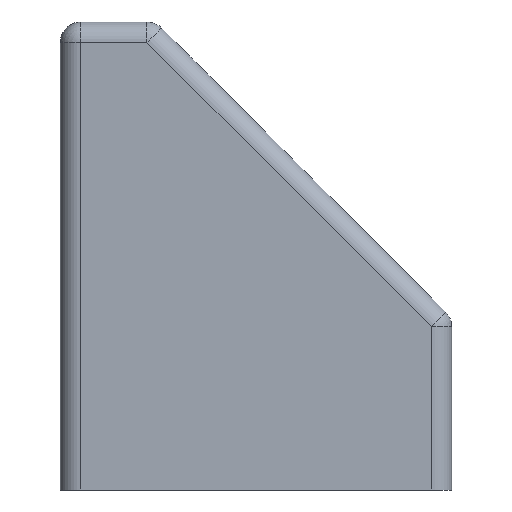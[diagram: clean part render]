
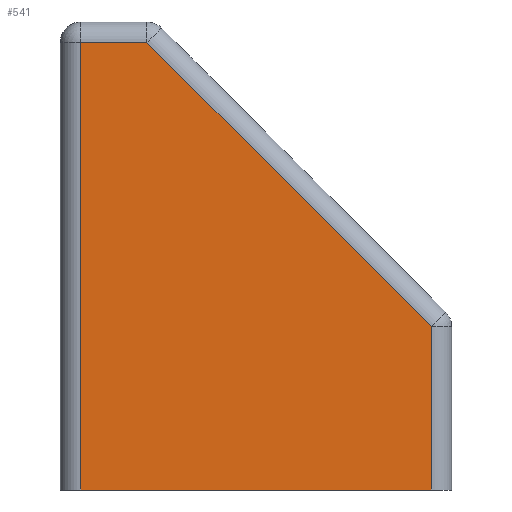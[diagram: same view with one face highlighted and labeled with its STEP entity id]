
A CAD part, left-side view. The second image highlights one B-rep face of the part: STEP entity #541.
In plain terms, the highlighted planar face has unit normal (-1, 0, 0).
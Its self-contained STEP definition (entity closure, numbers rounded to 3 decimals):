
#24 = VERTEX_POINT('',#25);
#25 = CARTESIAN_POINT('',(0.,3.,0.));
#33 = PLANE('',#34);
#34 = AXIS2_PLACEMENT_3D('',#35,#36,#37);
#35 = CARTESIAN_POINT('',(0.,0.,0.));
#36 = DIRECTION('',(0.,0.,1.));
#37 = DIRECTION('',(0.,1.,0.));
#49 = CYLINDRICAL_SURFACE('',#50,3.);
#50 = AXIS2_PLACEMENT_3D('',#51,#52,#53);
#51 = CARTESIAN_POINT('',(3.,3.,25.));
#52 = DIRECTION('',(0.,0.,-1.));
#53 = DIRECTION('',(0.,-1.,-0.));
#413 = VERTEX_POINT('',#414);
#414 = CARTESIAN_POINT('',(0.,54.,0.));
#429 = CYLINDRICAL_SURFACE('',#430,3.);
#430 = AXIS2_PLACEMENT_3D('',#431,#432,#433);
#431 = CARTESIAN_POINT('',(3.,54.,0.));
#432 = DIRECTION('',(0.,0.,1.));
#433 = DIRECTION('',(-0.,1.,0.));
#441 = EDGE_CURVE('',#24,#413,#442,.T.);
#442 = SURFACE_CURVE('',#443,(#447,#454),.PCURVE_S1.);
#443 = LINE('',#444,#445);
#444 = CARTESIAN_POINT('',(0.,0.,0.));
#445 = VECTOR('',#446,1.);
#446 = DIRECTION('',(0.,1.,0.));
#447 = PCURVE('',#33,#448);
#448 = DEFINITIONAL_REPRESENTATION('',(#449),#453);
#449 = LINE('',#450,#451);
#450 = CARTESIAN_POINT('',(0.,0.));
#451 = VECTOR('',#452,1.);
#452 = DIRECTION('',(1.,0.));
#453 = ( GEOMETRIC_REPRESENTATION_CONTEXT(2) 
PARAMETRIC_REPRESENTATION_CONTEXT() REPRESENTATION_CONTEXT('2D SPACE',''
  ) );
#454 = PCURVE('',#455,#460);
#455 = PLANE('',#456);
#456 = AXIS2_PLACEMENT_3D('',#457,#458,#459);
#457 = CARTESIAN_POINT('',(0.,33.413,28.529));
#458 = DIRECTION('',(1.,0.,0.));
#459 = DIRECTION('',(0.,1.,0.));
#460 = DEFINITIONAL_REPRESENTATION('',(#461),#465);
#461 = LINE('',#462,#463);
#462 = CARTESIAN_POINT('',(-33.413,-28.529));
#463 = VECTOR('',#464,1.);
#464 = DIRECTION('',(1.,0.));
#465 = ( GEOMETRIC_REPRESENTATION_CONTEXT(2) 
PARAMETRIC_REPRESENTATION_CONTEXT() REPRESENTATION_CONTEXT('2D SPACE',''
  ) );
#471 = VERTEX_POINT('',#472);
#472 = CARTESIAN_POINT('',(0.,3.,23.757));
#499 = EDGE_CURVE('',#471,#24,#500,.T.);
#500 = SURFACE_CURVE('',#501,(#505,#512),.PCURVE_S1.);
#501 = LINE('',#502,#503);
#502 = CARTESIAN_POINT('',(0.,3.,25.));
#503 = VECTOR('',#504,1.);
#504 = DIRECTION('',(0.,0.,-1.));
#505 = PCURVE('',#49,#506);
#506 = DEFINITIONAL_REPRESENTATION('',(#507),#511);
#507 = LINE('',#508,#509);
#508 = CARTESIAN_POINT('',(1.571,0.));
#509 = VECTOR('',#510,1.);
#510 = DIRECTION('',(0.,1.));
#511 = ( GEOMETRIC_REPRESENTATION_CONTEXT(2) 
PARAMETRIC_REPRESENTATION_CONTEXT() REPRESENTATION_CONTEXT('2D SPACE',''
  ) );
#512 = PCURVE('',#455,#513);
#513 = DEFINITIONAL_REPRESENTATION('',(#514),#518);
#514 = LINE('',#515,#516);
#515 = CARTESIAN_POINT('',(-30.413,-3.529));
#516 = VECTOR('',#517,1.);
#517 = DIRECTION('',(0.,-1.));
#518 = ( GEOMETRIC_REPRESENTATION_CONTEXT(2) 
PARAMETRIC_REPRESENTATION_CONTEXT() REPRESENTATION_CONTEXT('2D SPACE',''
  ) );
#541 = ADVANCED_FACE('',(#542),#455,.F.);
#542 = FACE_BOUND('',#543,.F.);
#543 = EDGE_LOOP('',(#544,#545,#568,#596,#622));
#544 = ORIENTED_EDGE('',*,*,#441,.T.);
#545 = ORIENTED_EDGE('',*,*,#546,.T.);
#546 = EDGE_CURVE('',#413,#547,#549,.T.);
#547 = VERTEX_POINT('',#548);
#548 = CARTESIAN_POINT('',(0.,54.,65.134));
#549 = SURFACE_CURVE('',#550,(#554,#561),.PCURVE_S1.);
#550 = LINE('',#551,#552);
#551 = CARTESIAN_POINT('',(0.,54.,0.));
#552 = VECTOR('',#553,1.);
#553 = DIRECTION('',(0.,0.,1.));
#554 = PCURVE('',#455,#555);
#555 = DEFINITIONAL_REPRESENTATION('',(#556),#560);
#556 = LINE('',#557,#558);
#557 = CARTESIAN_POINT('',(20.587,-28.529));
#558 = VECTOR('',#559,1.);
#559 = DIRECTION('',(0.,1.));
#560 = ( GEOMETRIC_REPRESENTATION_CONTEXT(2) 
PARAMETRIC_REPRESENTATION_CONTEXT() REPRESENTATION_CONTEXT('2D SPACE',''
  ) );
#561 = PCURVE('',#429,#562);
#562 = DEFINITIONAL_REPRESENTATION('',(#563),#567);
#563 = LINE('',#564,#565);
#564 = CARTESIAN_POINT('',(1.571,0.));
#565 = VECTOR('',#566,1.);
#566 = DIRECTION('',(0.,1.));
#567 = ( GEOMETRIC_REPRESENTATION_CONTEXT(2) 
PARAMETRIC_REPRESENTATION_CONTEXT() REPRESENTATION_CONTEXT('2D SPACE',''
  ) );
#568 = ORIENTED_EDGE('',*,*,#569,.T.);
#569 = EDGE_CURVE('',#547,#570,#572,.T.);
#570 = VERTEX_POINT('',#571);
#571 = CARTESIAN_POINT('',(0.,44.376,65.134));
#572 = SURFACE_CURVE('',#573,(#577,#584),.PCURVE_S1.);
#573 = LINE('',#574,#575);
#574 = CARTESIAN_POINT('',(0.,57.,65.134));
#575 = VECTOR('',#576,1.);
#576 = DIRECTION('',(0.,-1.,0.));
#577 = PCURVE('',#455,#578);
#578 = DEFINITIONAL_REPRESENTATION('',(#579),#583);
#579 = LINE('',#580,#581);
#580 = CARTESIAN_POINT('',(23.587,36.605));
#581 = VECTOR('',#582,1.);
#582 = DIRECTION('',(-1.,0.));
#583 = ( GEOMETRIC_REPRESENTATION_CONTEXT(2) 
PARAMETRIC_REPRESENTATION_CONTEXT() REPRESENTATION_CONTEXT('2D SPACE',''
  ) );
#584 = PCURVE('',#585,#590);
#585 = CYLINDRICAL_SURFACE('',#586,3.);
#586 = AXIS2_PLACEMENT_3D('',#587,#588,#589);
#587 = CARTESIAN_POINT('',(3.,57.,65.134));
#588 = DIRECTION('',(0.,-1.,0.));
#589 = DIRECTION('',(-0.,0.,1.));
#590 = DEFINITIONAL_REPRESENTATION('',(#591),#595);
#591 = LINE('',#592,#593);
#592 = CARTESIAN_POINT('',(1.571,0.));
#593 = VECTOR('',#594,1.);
#594 = DIRECTION('',(0.,1.));
#595 = ( GEOMETRIC_REPRESENTATION_CONTEXT(2) 
PARAMETRIC_REPRESENTATION_CONTEXT() REPRESENTATION_CONTEXT('2D SPACE',''
  ) );
#596 = ORIENTED_EDGE('',*,*,#597,.T.);
#597 = EDGE_CURVE('',#570,#471,#598,.T.);
#598 = SURFACE_CURVE('',#599,(#603,#610),.PCURVE_S1.);
#599 = LINE('',#600,#601);
#600 = CARTESIAN_POINT('',(0.,45.255,
    66.012));
#601 = VECTOR('',#602,1.);
#602 = DIRECTION('',(0.,-0.707,-0.707));
#603 = PCURVE('',#455,#604);
#604 = DEFINITIONAL_REPRESENTATION('',(#605),#609);
#605 = LINE('',#606,#607);
#606 = CARTESIAN_POINT('',(11.842,37.484));
#607 = VECTOR('',#608,1.);
#608 = DIRECTION('',(-0.707,-0.707));
#609 = ( GEOMETRIC_REPRESENTATION_CONTEXT(2) 
PARAMETRIC_REPRESENTATION_CONTEXT() REPRESENTATION_CONTEXT('2D SPACE',''
  ) );
#610 = PCURVE('',#611,#616);
#611 = CYLINDRICAL_SURFACE('',#612,3.);
#612 = AXIS2_PLACEMENT_3D('',#613,#614,#615);
#613 = CARTESIAN_POINT('',(3.,45.255,66.012));
#614 = DIRECTION('',(0.,-0.707,-0.707));
#615 = DIRECTION('',(0.,-0.707,0.707));
#616 = DEFINITIONAL_REPRESENTATION('',(#617),#621);
#617 = LINE('',#618,#619);
#618 = CARTESIAN_POINT('',(1.571,0.));
#619 = VECTOR('',#620,1.);
#620 = DIRECTION('',(0.,1.));
#621 = ( GEOMETRIC_REPRESENTATION_CONTEXT(2) 
PARAMETRIC_REPRESENTATION_CONTEXT() REPRESENTATION_CONTEXT('2D SPACE',''
  ) );
#622 = ORIENTED_EDGE('',*,*,#499,.T.);
